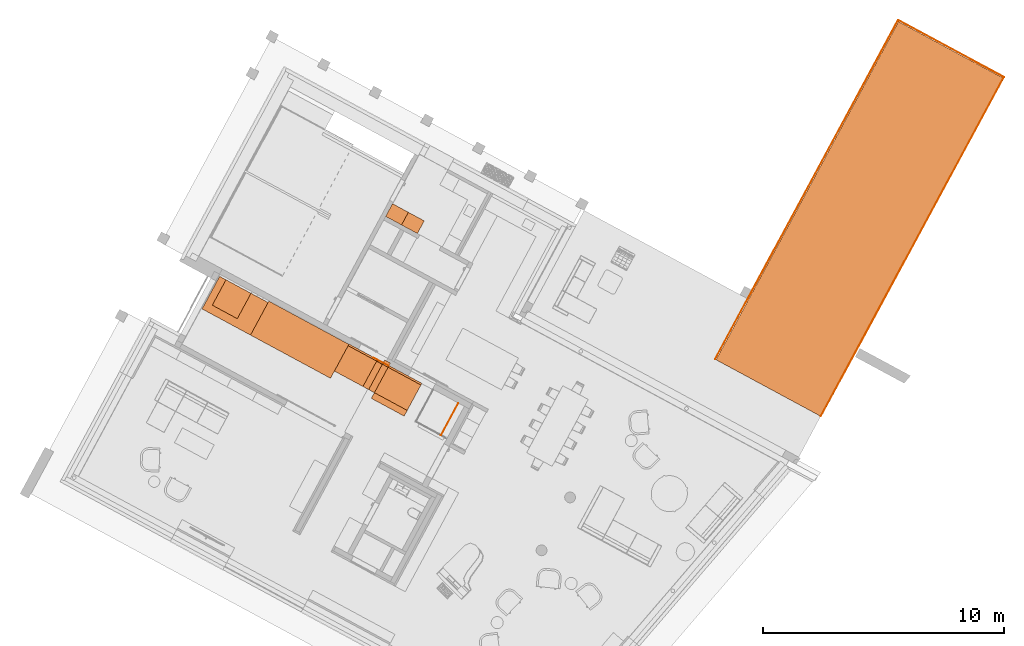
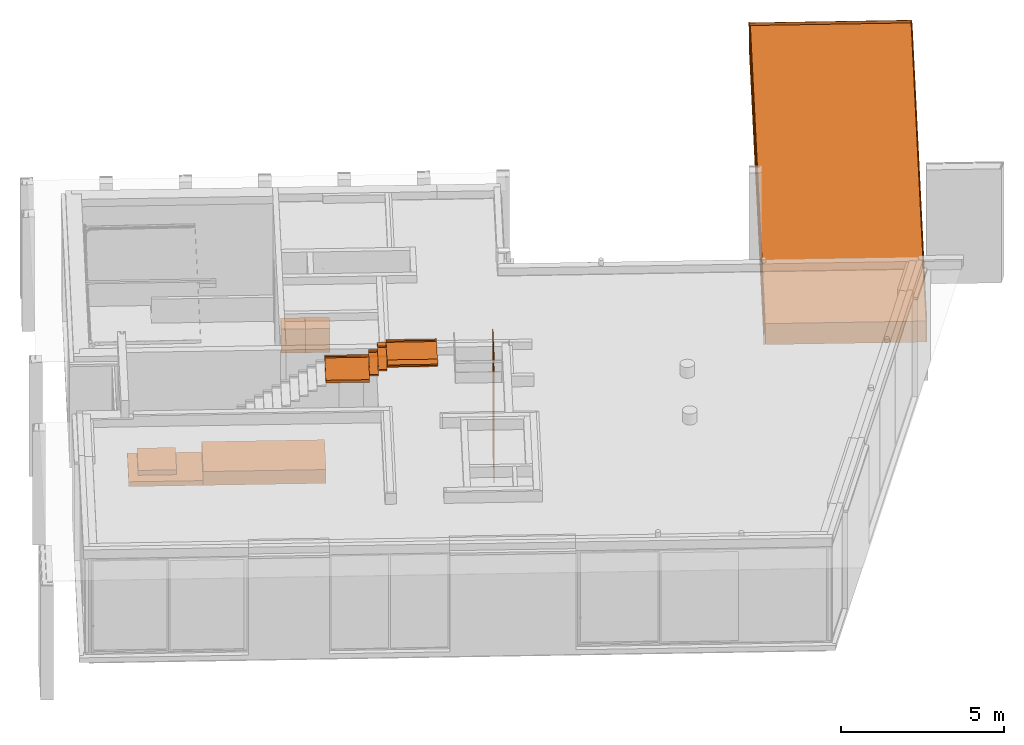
# One storey, part 42 of 52: 20 proxies.
"""IFC2X3 building model written with IfcOpenShell, lengths in metres."""

import ifcopenshell
import ifcopenshell.guid

model = None  # the IFC model being written
_history = None  # IfcOwnerHistory: only IFC2X3 demands one
_inside = {}  # id of a spatial element -> (the spatial element, [elements in it])
_under = {}  # id of a project, library or spatial element -> (it, [spatial elements below it])
_declared = {}  # id of a project -> (the project, [libraries it declares])
_typed = {}  # id of a type object -> (the type object, [elements of that type])
_made_of = {}  # id of a material, layer set ... -> (it, [elements and type objects made of it])


def new_model(schema):
    """Start an empty IFC model of exactly this schema.

    Asked for "IFC4X3", IfcOpenShell would pick the latest addendum, in which some entities
    have other attributes; the version numbers below select the first issue.
    IFC2X3 requires an IfcOwnerHistory on every rooted entity: one is made here for all.
    """
    global model, _history
    if schema == "IFC4X3":
        model = ifcopenshell.file(schema_version=(4, 3, 0, 0))
    else:
        model = ifcopenshell.file(schema=schema)
    _inside.clear()
    _under.clear()
    _declared.clear()
    _typed.clear()
    _made_of.clear()
    _history = None
    if model.schema == "IFC2X3":
        org = make("IfcOrganization", Name="unknown")
        user = make(
            "IfcPersonAndOrganization",
            ThePerson=make("IfcPerson", FamilyName="unknown"),
            TheOrganization=org,
        )
        app = make(
            "IfcApplication",
            ApplicationDeveloper=org,
            Version="unknown",
            ApplicationFullName="unknown",
            ApplicationIdentifier="unknown",
        )
        _history = make(
            "IfcOwnerHistory",
            OwningUser=user,
            OwningApplication=app,
            ChangeAction="ADDED",
            CreationDate=0,
        )
    return model


def make(cls, **values):
    """One entity of the class cls with the attributes given. An attribute that is None is left unset."""
    return model.create_entity(
        cls, **{name: value for name, value in values.items() if value is not None}
    )


def entity(cls, *values):
    """Any entity or typed value of the class cls, its attributes in the order of the schema. None: left unset."""
    e = model.create_entity(cls)
    for i, value in enumerate(values):
        if value is not None:
            e[i] = value
    return e


def rooted(cls, **values):
    """An entity with a GlobalId (a new one), such as an element, a storey or a relation."""
    return make(cls, GlobalId=ifcopenshell.guid.new(), OwnerHistory=_history, **values)


def si_unit(unit_type, name, prefix=None):
    """IfcSIUnit, for example si_unit("LENGTHUNIT", "METRE", prefix="MILLI")."""
    return make("IfcSIUnit", UnitType=unit_type, Prefix=prefix, Name=name)


def converted_unit(unit_type, name, factor, base, dimensions=None, offset=None):
    """IfcConversionBasedUnit, such as the inch: factor (a typed value) times the base unit."""
    return make(
        "IfcConversionBasedUnit"
        if offset is None
        else "IfcConversionBasedUnitWithOffset",
        ConversionOffset=offset,
        Dimensions=None
        if dimensions is None
        else entity("IfcDimensionalExponents", *dimensions),
        UnitType=unit_type,
        Name=name,
        ConversionFactor=make(
            "IfcMeasureWithUnit", ValueComponent=factor, UnitComponent=base
        ),
    )


def derived_unit(unit_type, elements):
    """IfcDerivedUnit: a product of units, each with its exponent."""
    return make(
        "IfcDerivedUnit",
        Elements=[
            make("IfcDerivedUnitElement", Unit=unit, Exponent=power)
            for unit, power in elements
        ],
        UnitType=unit_type,
    )


def money_unit(currency):
    """IfcMonetaryUnit."""
    return make("IfcMonetaryUnit", Currency=currency)


def assignment(units):
    """IfcUnitAssignment: the units of a project."""
    return None if units is None else make("IfcUnitAssignment", Units=units)


def point(xyz):
    """IfcCartesianPoint."""
    return None if xyz is None else make("IfcCartesianPoint", Coordinates=xyz)


def direction(xyz):
    """IfcDirection."""
    return None if xyz is None else make("IfcDirection", DirectionRatios=xyz)


def frame(location, z_axis=None, x_axis=None):
    """IfcAxis2Placement3D, a coordinate frame: its origin and axes. An axis left out is left unset."""
    return make(
        "IfcAxis2Placement3D",
        Location=point(location),
        Axis=direction(z_axis),
        RefDirection=direction(x_axis),
    )


def origin_with_axes():
    """The frame at (0, 0, 0) with the z axis (0, 0, 1) and the x axis (1, 0, 0) written out."""
    return frame((0.0, 0.0, 0.0), z_axis=(0.0, 0.0, 1.0), x_axis=(1.0, 0.0, 0.0))


def place(relative_to, where):
    """IfcLocalPlacement: puts the frame where relative to a parent placement (None: the world)."""
    return make(
        "IfcLocalPlacement", PlacementRelTo=relative_to, RelativePlacement=where
    )


def context(
    kind, dimensions, precision=None, world=None, true_north=None, identifier=None
):
    """IfcGeometricRepresentationContext, for example the 3D "Model" context."""
    return make(
        "IfcGeometricRepresentationContext",
        ContextIdentifier=identifier,
        ContextType=kind,
        CoordinateSpaceDimension=dimensions,
        Precision=precision,
        WorldCoordinateSystem=world,
        TrueNorth=true_north,
    )


def subcontext(parent, identifier, kind, view, scale=None):
    """IfcGeometricRepresentationSubContext, for example "Body" below "Model"."""
    return make(
        "IfcGeometricRepresentationSubContext",
        ContextIdentifier=identifier,
        ContextType=kind,
        ParentContext=parent,
        TargetScale=scale,
        TargetView=view,
    )


def project(units=None, contexts=None):
    """IfcProject with its units and contexts."""
    return rooted(
        "IfcProject",
        Name="project",
        RepresentationContexts=contexts,
        UnitsInContext=assignment(units),
    )


def spatial(cls, under=None, at=None, **own):
    """A site, building, storey or space (cls), placed at a placement, below another one or the project."""
    s = rooted(cls, ObjectPlacement=at, **own)
    if under is not None:
        _under.setdefault(under.id(), (under, []))[1].append(s)
    return s


def polyline(points):
    """IfcPolyline through the points."""
    return make("IfcPolyline", Points=[point(p) for p in points])


def outline(outer, holes=None, kind="AREA"):
    """IfcArbitraryClosedProfileDef: a profile drawn as a closed curve; with holes, ...WithVoids."""
    if holes is None:
        return make("IfcArbitraryClosedProfileDef", ProfileType=kind, OuterCurve=outer)
    return make(
        "IfcArbitraryProfileDefWithVoids",
        ProfileType=kind,
        OuterCurve=outer,
        InnerCurves=holes,
    )


def extrude(swept, where, along, depth):
    """IfcExtrudedAreaSolid: the profile swept, set in the frame where, extruded along a direction by depth."""
    return make(
        "IfcExtrudedAreaSolid",
        SweptArea=swept,
        Position=where,
        ExtrudedDirection=direction(along),
        Depth=depth,
    )


def faces_of(points, faces, orient=None, outer=None):
    """IfcFace entities. A face is a list of loops; a loop is a list of indices into points, from 0.

    orient and outer hold one flag for each loop. By default every Orientation is true, the
    first loop of a face is its IfcFaceOuterBound and the others are IfcFaceBound.
    """
    made = []
    for i, loops in enumerate(faces):
        bounds = []
        for j, loop in enumerate(loops):
            is_outer = j == 0 if outer is None else outer[i][j]
            bounds.append(
                make(
                    "IfcFaceOuterBound" if is_outer else "IfcFaceBound",
                    Bound=make("IfcPolyLoop", Polygon=[points[k] for k in loop]),
                    Orientation=True if orient is None else orient[i][j],
                )
            )
        made.append(make("IfcFace", Bounds=bounds))
    return made


def faceted_brep(points, faces, orient=None, outer=None, voids=None):
    """IfcFacetedBrep: a solid bounded by flat faces; with voids (closed shells), ...WithVoids."""
    shared = [point(p) for p in points]
    hull = make("IfcClosedShell", CfsFaces=faces_of(shared, faces, orient, outer))
    if voids is None:
        return make("IfcFacetedBrep", Outer=hull)
    return make(
        "IfcFacetedBrepWithVoids",
        Outer=hull,
        Voids=[
            make(cls, CfsFaces=faces_of(shared, fs, o, b)) for cls, fs, o, b in voids
        ],
    )


def shape(context_of_items, identifier, shape_type, items):
    """IfcShapeRepresentation: the items that make up one representation, for example the "Body"."""
    return make(
        "IfcShapeRepresentation",
        ContextOfItems=context_of_items,
        RepresentationIdentifier=identifier,
        RepresentationType=shape_type,
        Items=items,
    )


def source(mapping_origin, context_of_items, identifier, shape_type, items):
    """IfcRepresentationMap: a shape defined once, which mapped items show again and again."""
    return make(
        "IfcRepresentationMap",
        MappingOrigin=mapping_origin,
        MappedRepresentation=shape(context_of_items, identifier, shape_type, items),
    )


def transform(
    local_origin,
    x_axis=None,
    y_axis=None,
    z_axis=None,
    scale=None,
    scale2=None,
    scale3=None,
    uniform=True,
):
    """IfcCartesianTransformationOperator3D, or its non-uniform kind. x_axis, y_axis, z_axis: its Axis1, 2, 3."""
    if uniform:
        return make(
            "IfcCartesianTransformationOperator3D",
            Axis1=direction(x_axis),
            Axis2=direction(y_axis),
            LocalOrigin=point(local_origin),
            Scale=scale,
            Axis3=direction(z_axis),
        )
    return make(
        "IfcCartesianTransformationOperator3DnonUniform",
        Axis1=direction(x_axis),
        Axis2=direction(y_axis),
        LocalOrigin=point(local_origin),
        Scale=scale,
        Axis3=direction(z_axis),
        Scale2=scale2,
        Scale3=scale3,
    )


def mapped(mapping_source, mapping_target):
    """IfcMappedItem: shows the shape of a source again, moved by a transform."""
    return make(
        "IfcMappedItem", MappingSource=mapping_source, MappingTarget=mapping_target
    )


def material(Name=None, Category=None):
    """IfcMaterial."""
    return make("IfcMaterial", Name=Name, Category=Category)


def made_of(thing, what):
    """Note that an element or type object is made of a material, layer set ...; save() writes the relation."""
    if what is not None:
        _made_of.setdefault(what.id(), (what, []))[1].append(thing)
    return thing


def type_object(cls, material=None, **own):
    """A type object (cls), such as IfcWallType, which elements share."""
    return made_of(rooted(cls, **own), material)


def element(
    cls,
    number,
    at=None,
    inside=None,
    cuts=None,
    type_object=None,
    material=None,
    context=None,
    identifier="Body",
    shape_type=None,
    held_by="IfcProductDefinitionShape",
    body=None,
    shapes=None,
    **own,
):
    """One element of the class cls, such as IfcWall. Its Tag is "e" and its number.

    at: its placement. inside: the storey or other place that contains it. cuts: it is an
    opening in that element (IfcRelVoidsElement). A single representation is given by context,
    identifier, shape_type and body (its items); several are given by shapes. held_by: the class
    of the entity that holds the representations. save() writes the other relations.
    """
    e = rooted(cls, Tag="e%d" % number, ObjectPlacement=at, **own)
    if body is not None:
        shapes = [shape(context, identifier, shape_type, body)]
    if shapes is not None:
        e.Representation = make(held_by, Representations=shapes)
    if inside is not None:
        _inside.setdefault(inside.id(), (inside, []))[1].append(e)
    if cuts is not None:
        rooted(
            "IfcRelVoidsElement", RelatingBuildingElement=cuts, RelatedOpeningElement=e
        )
    if type_object is not None:
        _typed.setdefault(type_object.id(), (type_object, []))[1].append(e)
    return made_of(e, material)


def aggregate(whole, parts):
    """IfcRelAggregates: a whole, such as a stair, and the parts it consists of."""
    return rooted("IfcRelAggregates", RelatingObject=whole, RelatedObjects=parts)


def save(model, path):
    """Write the relations noted so far, then the file.

    IfcRelAggregates (storeys below a building ...), IfcRelContainedInSpatialStructure (elements
    in a storey), IfcRelDefinesByType, IfcRelAssociatesMaterial and IfcRelDeclares: one each for
    every whole, place, type object, material and project.
    """
    for whole, parts in _under.values():
        aggregate(whole, parts)
    for where, things in _inside.values():
        rooted(
            "IfcRelContainedInSpatialStructure",
            RelatedElements=things,
            RelatingStructure=where,
        )
    for kind, things in _typed.values():
        rooted("IfcRelDefinesByType", RelatedObjects=things, RelatingType=kind)
    for what, things in _made_of.values():
        rooted("IfcRelAssociatesMaterial", RelatedObjects=things, RelatingMaterial=what)
    for by, libraries in _declared.values():
        rooted("IfcRelDeclares", RelatingContext=by, RelatedDefinitions=libraries)
    model.write(path)


model = new_model("IFC2X3")

# Units and contexts
model_context = context("Model", 3, precision=1e-05, world=origin_with_axes(), true_north=direction((0.0, 1.0)))
body_context = subcontext(model_context, "Body", "Model", "MODEL_VIEW")
ifc_project = project(units=[si_unit("LENGTHUNIT", "METRE"), si_unit("AREAUNIT", "SQUARE_METRE"), si_unit("VOLUMEUNIT", "CUBIC_METRE"), converted_unit("PLANEANGLEUNIT", "DEGREE", entity("IfcPlaneAngleMeasure", 0.0174532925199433), si_unit("PLANEANGLEUNIT", "RADIAN"), dimensions=[0, 0, 0, 0, 0, 0, 0]), money_unit("EUR"), converted_unit("TIMEUNIT", "Year", entity("IfcTimeMeasure", 31556926.0), si_unit("TIMEUNIT", "SECOND"), dimensions=[0, 0, 1, 0, 0, 0, 0]), si_unit("MASSUNIT", "GRAM", prefix="KILO"), si_unit("THERMODYNAMICTEMPERATUREUNIT", "DEGREE_CELSIUS"), si_unit("LUMINOUSINTENSITYUNIT", "LUMEN"), si_unit("ENERGYUNIT", "JOULE", prefix="MEGA"), derived_unit("THERMALCONDUCTANCEUNIT", [(si_unit("POWERUNIT", "WATT"), 1), (si_unit("LENGTHUNIT", "METRE"), -1), (si_unit("THERMODYNAMICTEMPERATUREUNIT", "KELVIN"), -1)]), derived_unit("SPECIFICHEATCAPACITYUNIT", [(si_unit("ENERGYUNIT", "JOULE"), 1), (si_unit("MASSUNIT", "GRAM", prefix="KILO"), -1), (si_unit("THERMODYNAMICTEMPERATUREUNIT", "KELVIN"), -1)]), derived_unit("MASSDENSITYUNIT", [(si_unit("MASSUNIT", "GRAM", prefix="KILO"), 1), (si_unit("VOLUMEUNIT", "CUBIC_METRE"), -1)])], contexts=[model_context])

# Site, building, storey
site_placement = place(None, frame((-3.949935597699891, 1.740105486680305, 0.0), z_axis=(0.0, 0.0, 1.0), x_axis=(0.8799804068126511, -0.475009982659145, 0.0)))
site = spatial("IfcSite", under=ifc_project, at=site_placement, Name="Gelände", CompositionType="ELEMENT")
building_placement = place(site_placement, origin_with_axes())
building = spatial("IfcBuilding", under=site, at=building_placement, Name="Gebäude", CompositionType="ELEMENT")
storey_placement = place(building_placement, origin_with_axes())
storey = spatial("IfcBuildingStorey", under=building, at=storey_placement, Name="Erdgeschoss", CompositionType="ELEMENT", Elevation=0.0)

# Proxies
building_element_proxy_type_1 = type_object("IfcBuildingElementProxyType", Name="Unterschrank Mehrfach-Schublade 22", PredefinedType="NOTDEFINED")
shared_shape = source(origin_with_axes(), body_context, "Body", "Brep", [
    faceted_brep([(-0.001500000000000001, 0.07, 0.0915), (-0.001500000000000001, 0.05, 0.0915), (-0.7484999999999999, 0.05, 0.0915), (-0.7484999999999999, 0.07, 0.0915), (-0.001500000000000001, 0.07000000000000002, 0.2785), (-0.001500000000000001, 0.05000000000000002, 0.2785), (-0.7484999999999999, 0.05000000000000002, 0.2785), (-0.7484999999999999, 0.07000000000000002, 0.2785)], [[[0, 1, 2, 3]], [[4, 5, 1, 0]], [[1, 5, 6, 2]], [[3, 2, 6, 7]], [[0, 3, 7, 4]], [[7, 6, 5, 4]]]),
    faceted_brep([(-0.3704077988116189, 0.05, 0.2039134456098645), (-0.375, 0.05, 0.203), (-0.3795922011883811, 0.05, 0.2039134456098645), (-0.3834852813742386, 0.05, 0.2065147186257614), (-0.3860865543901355, 0.05, 0.2104077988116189), (-0.387, 0.05, 0.215), (-0.3860865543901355, 0.05, 0.2195922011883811), (-0.3834852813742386, 0.05, 0.2234852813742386), (-0.3795922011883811, 0.05, 0.2260865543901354), (-0.375, 0.05, 0.227), (-0.3704077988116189, 0.05, 0.2260865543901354), (-0.3665147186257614, 0.05, 0.2234852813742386), (-0.3639134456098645, 0.05, 0.2195922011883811), (-0.363, 0.05, 0.215), (-0.3639134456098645, 0.05, 0.2104077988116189), (-0.3665147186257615, 0.05, 0.2065147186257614), (-0.3704077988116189, 0.025, 0.2039134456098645), (-0.375, 0.025, 0.203), (-0.3795922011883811, 0.025, 0.2039134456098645), (-0.3834852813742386, 0.025, 0.2065147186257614), (-0.3860865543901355, 0.025, 0.2104077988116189), (-0.387, 0.025, 0.215), (-0.3860865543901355, 0.025, 0.2195922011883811), (-0.3834852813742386, 0.025, 0.2234852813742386), (-0.3795922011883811, 0.025, 0.2260865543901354), (-0.375, 0.025, 0.227), (-0.3704077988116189, 0.025, 0.2260865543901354), (-0.3665147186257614, 0.025, 0.2234852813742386), (-0.3639134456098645, 0.025, 0.2195922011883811), (-0.363, 0.025, 0.215), (-0.3639134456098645, 0.025, 0.2104077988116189), (-0.3665147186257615, 0.025, 0.2065147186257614)], [[[0, 1, 2, 3, 4, 5, 6, 7, 8, 9, 10, 11, 12, 13, 14, 15]], [[0, 16, 17, 1]], [[1, 17, 18, 2]], [[2, 18, 19, 3]], [[3, 19, 20, 4]], [[4, 20, 21, 5]], [[5, 21, 22, 6]], [[6, 22, 23, 7]], [[7, 23, 24, 8]], [[8, 24, 25, 9]], [[9, 25, 26, 10]], [[10, 26, 27, 11]], [[11, 27, 28, 12]], [[12, 28, 29, 13]], [[13, 29, 30, 14]], [[14, 30, 31, 15]], [[15, 31, 16, 0]], [[16, 31, 30, 29, 28, 27, 26, 25, 24, 23, 22, 21, 20, 19, 18, 17]]]),
    faceted_brep([(-0.001500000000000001, 0.07, 0.2815), (-0.001500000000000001, 0.05, 0.2815), (-0.7484999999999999, 0.05, 0.2815), (-0.7484999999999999, 0.07, 0.2815), (-0.001500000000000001, 0.07000000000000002, 0.4685), (-0.001500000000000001, 0.05000000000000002, 0.4685), (-0.7484999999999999, 0.05000000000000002, 0.4685), (-0.7484999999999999, 0.07000000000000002, 0.4685)], [[[0, 1, 2, 3]], [[4, 5, 1, 0]], [[1, 5, 6, 2]], [[3, 2, 6, 7]], [[0, 3, 7, 4]], [[7, 6, 5, 4]]]),
    faceted_brep([(-0.3704077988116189, 0.05, 0.3939134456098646), (-0.375, 0.05, 0.393), (-0.3795922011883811, 0.05, 0.3939134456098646), (-0.3834852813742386, 0.05, 0.3965147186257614), (-0.3860865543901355, 0.05, 0.400407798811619), (-0.387, 0.05, 0.405), (-0.3860865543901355, 0.05, 0.4095922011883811), (-0.3834852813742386, 0.05, 0.4134852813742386), (-0.3795922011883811, 0.05, 0.4160865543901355), (-0.375, 0.05, 0.417), (-0.3704077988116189, 0.05, 0.4160865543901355), (-0.3665147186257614, 0.05, 0.4134852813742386), (-0.3639134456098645, 0.05, 0.4095922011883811), (-0.363, 0.05, 0.405), (-0.3639134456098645, 0.05, 0.4004077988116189), (-0.3665147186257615, 0.05, 0.3965147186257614), (-0.3704077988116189, 0.025, 0.3939134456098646), (-0.375, 0.025, 0.393), (-0.3795922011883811, 0.025, 0.3939134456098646), (-0.3834852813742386, 0.025, 0.3965147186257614), (-0.3860865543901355, 0.025, 0.400407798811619), (-0.387, 0.025, 0.405), (-0.3860865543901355, 0.025, 0.4095922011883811), (-0.3834852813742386, 0.025, 0.4134852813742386), (-0.3795922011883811, 0.025, 0.4160865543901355), (-0.375, 0.025, 0.417), (-0.3704077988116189, 0.025, 0.4160865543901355), (-0.3665147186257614, 0.025, 0.4134852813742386), (-0.3639134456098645, 0.025, 0.4095922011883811), (-0.363, 0.025, 0.405), (-0.3639134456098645, 0.025, 0.4004077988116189), (-0.3665147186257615, 0.025, 0.3965147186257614)], [[[0, 1, 2, 3, 4, 5, 6, 7, 8, 9, 10, 11, 12, 13, 14, 15]], [[0, 16, 17, 1]], [[1, 17, 18, 2]], [[2, 18, 19, 3]], [[3, 19, 20, 4]], [[4, 20, 21, 5]], [[5, 21, 22, 6]], [[6, 22, 23, 7]], [[7, 23, 24, 8]], [[8, 24, 25, 9]], [[9, 25, 26, 10]], [[10, 26, 27, 11]], [[11, 27, 28, 12]], [[12, 28, 29, 13]], [[13, 29, 30, 14]], [[14, 30, 31, 15]], [[15, 31, 16, 0]], [[16, 31, 30, 29, 28, 27, 26, 25, 24, 23, 22, 21, 20, 19, 18, 17]]]),
    faceted_brep([(-0.02, 0.07, 0.28), (-0.02, 0.07, 0.3), (-0.73, 0.07, 0.3), (-0.73, 0.07, 0.28), (-0.02, 0.58, 0.28), (-0.02, 0.58, 0.3), (-0.73, 0.58, 0.3), (-0.73, 0.58, 0.28)], [[[0, 1, 2, 3]], [[4, 5, 1, 0]], [[1, 5, 6, 2]], [[3, 2, 6, 7]], [[0, 3, 7, 4]], [[7, 6, 5, 4]]]),
    faceted_brep([(-0.001500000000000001, 0.07, 0.4715), (-0.001500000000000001, 0.05, 0.4715), (-0.7484999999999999, 0.05, 0.4715), (-0.7484999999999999, 0.07, 0.4715), (-0.001500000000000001, 0.07000000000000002, 0.6585), (-0.001500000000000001, 0.05000000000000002, 0.6585), (-0.7484999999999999, 0.05000000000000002, 0.6585), (-0.7484999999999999, 0.07000000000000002, 0.6585)], [[[0, 1, 2, 3]], [[4, 5, 1, 0]], [[1, 5, 6, 2]], [[3, 2, 6, 7]], [[0, 3, 7, 4]], [[7, 6, 5, 4]]]),
    faceted_brep([(-0.3704077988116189, 0.05, 0.5839134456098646), (-0.375, 0.05, 0.583), (-0.3795922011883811, 0.05, 0.5839134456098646), (-0.3834852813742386, 0.05, 0.5865147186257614), (-0.3860865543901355, 0.05, 0.5904077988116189), (-0.387, 0.05, 0.595), (-0.3860865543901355, 0.05, 0.5995922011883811), (-0.3834852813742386, 0.05, 0.6034852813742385), (-0.3795922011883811, 0.05, 0.6060865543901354), (-0.375, 0.05, 0.607), (-0.3704077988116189, 0.05, 0.6060865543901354), (-0.3665147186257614, 0.05, 0.6034852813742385), (-0.3639134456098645, 0.05, 0.5995922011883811), (-0.363, 0.05, 0.595), (-0.3639134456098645, 0.05, 0.5904077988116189), (-0.3665147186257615, 0.05, 0.5865147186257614), (-0.3704077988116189, 0.025, 0.5839134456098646), (-0.375, 0.025, 0.583), (-0.3795922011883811, 0.025, 0.5839134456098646), (-0.3834852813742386, 0.025, 0.5865147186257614), (-0.3860865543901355, 0.025, 0.5904077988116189), (-0.387, 0.025, 0.595), (-0.3860865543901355, 0.025, 0.5995922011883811), (-0.3834852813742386, 0.025, 0.6034852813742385), (-0.3795922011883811, 0.025, 0.6060865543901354), (-0.375, 0.025, 0.607), (-0.3704077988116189, 0.025, 0.6060865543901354), (-0.3665147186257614, 0.025, 0.6034852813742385), (-0.3639134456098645, 0.025, 0.5995922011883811), (-0.363, 0.025, 0.595), (-0.3639134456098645, 0.025, 0.5904077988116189), (-0.3665147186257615, 0.025, 0.5865147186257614)], [[[0, 1, 2, 3, 4, 5, 6, 7, 8, 9, 10, 11, 12, 13, 14, 15]], [[0, 16, 17, 1]], [[1, 17, 18, 2]], [[2, 18, 19, 3]], [[3, 19, 20, 4]], [[4, 20, 21, 5]], [[5, 21, 22, 6]], [[6, 22, 23, 7]], [[7, 23, 24, 8]], [[8, 24, 25, 9]], [[9, 25, 26, 10]], [[10, 26, 27, 11]], [[11, 27, 28, 12]], [[12, 28, 29, 13]], [[13, 29, 30, 14]], [[14, 30, 31, 15]], [[15, 31, 16, 0]], [[16, 31, 30, 29, 28, 27, 26, 25, 24, 23, 22, 21, 20, 19, 18, 17]]]),
    faceted_brep([(-0.02, 0.07, 0.47), (-0.02, 0.07, 0.49), (-0.73, 0.07, 0.49), (-0.73, 0.07, 0.47), (-0.02, 0.58, 0.47), (-0.02, 0.58, 0.49), (-0.73, 0.58, 0.49), (-0.73, 0.58, 0.47)], [[[0, 1, 2, 3]], [[4, 5, 1, 0]], [[1, 5, 6, 2]], [[3, 2, 6, 7]], [[0, 3, 7, 4]], [[7, 6, 5, 4]]]),
    faceted_brep([(-0.001500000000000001, 0.07, 0.6615), (-0.001500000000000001, 0.05, 0.6615), (-0.7484999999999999, 0.05, 0.6615), (-0.7484999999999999, 0.07, 0.6615), (-0.001500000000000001, 0.07000000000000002, 0.8485), (-0.001500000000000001, 0.05000000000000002, 0.8485), (-0.7484999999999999, 0.05000000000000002, 0.8485), (-0.7484999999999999, 0.07000000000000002, 0.8485)], [[[0, 1, 2, 3]], [[4, 5, 1, 0]], [[1, 5, 6, 2]], [[3, 2, 6, 7]], [[0, 3, 7, 4]], [[7, 6, 5, 4]]]),
    faceted_brep([(-0.3704077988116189, 0.05, 0.7739134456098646), (-0.375, 0.05, 0.773), (-0.3795922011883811, 0.05, 0.7739134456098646), (-0.3834852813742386, 0.05, 0.7765147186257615), (-0.3860865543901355, 0.05, 0.7804077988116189), (-0.387, 0.05, 0.785), (-0.3860865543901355, 0.05, 0.7895922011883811), (-0.3834852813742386, 0.05, 0.7934852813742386), (-0.3795922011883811, 0.05, 0.7960865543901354), (-0.375, 0.05, 0.797), (-0.3704077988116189, 0.05, 0.7960865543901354), (-0.3665147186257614, 0.05, 0.7934852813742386), (-0.3639134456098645, 0.05, 0.7895922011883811), (-0.363, 0.05, 0.785), (-0.3639134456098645, 0.05, 0.7804077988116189), (-0.3665147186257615, 0.05, 0.7765147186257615), (-0.3704077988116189, 0.025, 0.7739134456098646), (-0.375, 0.025, 0.773), (-0.3795922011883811, 0.025, 0.7739134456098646), (-0.3834852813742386, 0.025, 0.7765147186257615), (-0.3860865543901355, 0.025, 0.7804077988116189), (-0.387, 0.025, 0.785), (-0.3860865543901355, 0.025, 0.7895922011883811), (-0.3834852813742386, 0.025, 0.7934852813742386), (-0.3795922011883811, 0.025, 0.7960865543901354), (-0.375, 0.025, 0.797), (-0.3704077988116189, 0.025, 0.7960865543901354), (-0.3665147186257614, 0.025, 0.7934852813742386), (-0.3639134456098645, 0.025, 0.7895922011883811), (-0.363, 0.025, 0.785), (-0.3639134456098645, 0.025, 0.7804077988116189), (-0.3665147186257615, 0.025, 0.7765147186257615)], [[[0, 1, 2, 3, 4, 5, 6, 7, 8, 9, 10, 11, 12, 13, 14, 15]], [[0, 16, 17, 1]], [[1, 17, 18, 2]], [[2, 18, 19, 3]], [[3, 19, 20, 4]], [[4, 20, 21, 5]], [[5, 21, 22, 6]], [[6, 22, 23, 7]], [[7, 23, 24, 8]], [[8, 24, 25, 9]], [[9, 25, 26, 10]], [[10, 26, 27, 11]], [[11, 27, 28, 12]], [[12, 28, 29, 13]], [[13, 29, 30, 14]], [[14, 30, 31, 15]], [[15, 31, 16, 0]], [[16, 31, 30, 29, 28, 27, 26, 25, 24, 23, 22, 21, 20, 19, 18, 17]]]),
    faceted_brep([(-0.02, 0.07, 0.66), (-0.02, 0.07, 0.68), (-0.73, 0.07, 0.68), (-0.73, 0.07, 0.66), (-0.02, 0.58, 0.66), (-0.02, 0.58, 0.68), (-0.73, 0.58, 0.68), (-0.73, 0.58, 0.66)], [[[0, 1, 2, 3]], [[4, 5, 1, 0]], [[1, 5, 6, 2]], [[3, 2, 6, 7]], [[0, 3, 7, 4]], [[7, 6, 5, 4]]]),
    faceted_brep([(0.0, 0.07, 0.0), (0.0, 0.07, 0.09), (-0.75, 0.07, 0.09), (-0.75, 0.07, 0.0), (0.0, 0.6, 0.0), (0.0, 0.6, 0.09), (-0.75, 0.6, 0.09), (-0.75, 0.6, 0.0)], [[[0, 1, 2, 3]], [[4, 5, 1, 0]], [[1, 5, 6, 2]], [[3, 2, 6, 7]], [[0, 3, 7, 4]], [[7, 6, 5, 4]]]),
    faceted_brep([(0.0, 0.07, 0.83), (0.0, 0.07, 0.85), (-0.02, 0.07, 0.85), (-0.02, 0.07, 0.83), (0.0, 0.6, 0.83), (0.0, 0.6, 0.85), (-0.02, 0.6, 0.85), (-0.73, 0.6, 0.85), (-0.75, 0.6, 0.85), (-0.75, 0.07, 0.85), (-0.73, 0.07, 0.85), (-0.73, 0.07, 0.83), (-0.75, 0.07, 0.83), (-0.75, 0.6, 0.83), (-0.73, 0.6, 0.83), (-0.02, 0.6, 0.83)], [[[0, 1, 2, 3]], [[4, 5, 1, 0]], [[1, 5, 6, 7, 8, 9, 10, 2]], [[3, 2, 10, 11]], [[0, 3, 11, 12, 13, 14, 15, 4]], [[15, 6, 5, 4]], [[14, 7, 6, 15]], [[13, 8, 7, 14]], [[12, 9, 8, 13]], [[11, 10, 9, 12]]]),
    faceted_brep([(0.0, 0.07, 0.09), (0.0, 0.07, 0.11), (-0.02, 0.07, 0.11), (-0.02, 0.07, 0.09), (0.0, 0.6, 0.09), (0.0, 0.6, 0.11), (-0.02, 0.6, 0.11), (-0.73, 0.6, 0.11), (-0.75, 0.6, 0.11), (-0.75, 0.07, 0.11), (-0.73, 0.07, 0.11), (-0.73, 0.07, 0.09), (-0.75, 0.07, 0.09), (-0.75, 0.6, 0.09), (-0.73, 0.6, 0.09), (-0.02, 0.6, 0.09)], [[[0, 1, 2, 3]], [[4, 5, 1, 0]], [[1, 5, 6, 7, 8, 9, 10, 2]], [[3, 2, 10, 11]], [[0, 3, 11, 12, 13, 14, 15, 4]], [[15, 6, 5, 4]], [[14, 7, 6, 15]], [[13, 8, 7, 14]], [[12, 9, 8, 13]], [[11, 10, 9, 12]]]),
    faceted_brep([(0.0, 0.07, 0.11), (0.0, 0.07, 0.83), (-0.02, 0.07, 0.83), (-0.02, 0.07, 0.11), (0.0, 0.6, 0.11), (0.0, 0.6, 0.83), (-0.75, 0.6, 0.83), (-0.75, 0.07, 0.83), (-0.73, 0.07, 0.83), (-0.73, 0.58, 0.83), (-0.02, 0.58, 0.83), (-0.02, 0.58, 0.11), (-0.73, 0.58, 0.11), (-0.73, 0.07, 0.11), (-0.75, 0.07, 0.11), (-0.75, 0.6, 0.11)], [[[0, 1, 2, 3]], [[4, 5, 1, 0]], [[1, 5, 6, 7, 8, 9, 10, 2]], [[3, 2, 10, 11]], [[0, 3, 11, 12, 13, 14, 15, 4]], [[15, 6, 5, 4]], [[14, 7, 6, 15]], [[13, 8, 7, 14]], [[12, 9, 8, 13]], [[11, 10, 9, 12]]]),
    faceted_brep([(0.0, 0.0, 0.85), (0.0, 0.0, 0.9), (-0.75, 0.0, 0.9), (-0.75, 0.0, 0.85), (0.0, 0.6, 0.85), (0.0, 0.6, 0.9), (-0.75, 0.6, 0.9), (-0.75, 0.6, 0.85)], [[[0, 1, 2, 3]], [[4, 5, 1, 0]], [[1, 5, 6, 2]], [[3, 2, 6, 7]], [[0, 3, 7, 4]], [[7, 6, 5, 4]]]),
])
for number, where, z_axis, x_axis, name in (
    (1, (10.53740756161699, 16.6496917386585, 0.0), (0.0, 0.0, 1.0), (-1.0, 0.0, 0.0), "Objekt-0064"),
    (2, (11.28740756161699, 16.6496917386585, 0.0), (0.0, 0.0, 1.0), (-1.0, 0.0, 0.0), "Objekt-0064"),
):
    element("IfcBuildingElementProxy", number, at=place(storey_placement, frame(where, z_axis=z_axis, x_axis=x_axis)), inside=storey, type_object=building_element_proxy_type_1, Name=name, context=body_context, shape_type="MappedRepresentation", body=[
        mapped(shared_shape, transform((0.0, 0.0, 0.0))),
    ])
ifc_material_1 = material(Name="Wasser")
building_element_proxy_type_2 = type_object("IfcBuildingElementProxyType", Name="Wasser 789", PredefinedType="NOTDEFINED")
proxy_1_placement = place(storey_placement, frame((25.45796349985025, 17.3278052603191, -0.8737883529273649), z_axis=(0.0, 0.0, 1.0), x_axis=(1.0, 0.0, 0.0)))
element("IfcBuildingElementProxy", 3, at=proxy_1_placement, inside=storey, type_object=building_element_proxy_type_2, material=ifc_material_1, Name="Decke026", context=body_context, shape_type="Brep", body=[
    faceted_brep([(4.943330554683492, 7.315222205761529e-08, 0.7887889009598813), (4.943330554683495, 15.98039587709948, 0.7887889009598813), (0.0, 15.98039587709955, 0.7887889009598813), (0.0, 0.0, 0.7887889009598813), (4.943330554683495, 15.98039587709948, 0.0), (4.943330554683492, 7.315222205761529e-08, 0.0), (0.0, 15.98039587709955, 0.0), (0.0, 0.0, 0.0)], [[[0, 1, 2, 3]], [[4, 1, 0, 5]], [[1, 4, 6, 2]], [[2, 6, 7, 3]], [[5, 0, 3, 7]], [[4, 5, 7, 6]]]),
    faceted_brep([(4.953330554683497, 15.98039587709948, 0.0), (4.953330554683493, 15.98039587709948, 0.7887889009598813), (4.979199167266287, 15.98039587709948, 0.7887889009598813), (4.979199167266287, 15.98039587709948, 0.0), (4.953330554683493, 7.315222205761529e-08, 0.7887889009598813), (4.953330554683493, 7.315222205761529e-08, 0.0), (4.979199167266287, 0.0, 0.7887889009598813), (4.979199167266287, 0.0, 0.0)], [[[0, 1, 2, 3]], [[4, 1, 0, 5]], [[1, 4, 6, 2]], [[6, 7, 3, 2]], [[5, 0, 3, 7]], [[4, 5, 7, 6]]]),
])
ifc_material_2 = material(Name="Glas, Normalglas")
building_element_proxy_type_3 = type_object("IfcBuildingElementProxyType", Name="Glas, Normalglas 10", PredefinedType="NOTDEFINED")
proxy_2_placement = place(storey_placement, frame((16.89157746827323, 9.12780041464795, -0.15), z_axis=(0.0, 0.0, 1.0), x_axis=(-9.806387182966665e-07, 0.9999999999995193, 0.0)))
element("IfcBuildingElementProxy", 4, at=proxy_2_placement, inside=storey, type_object=building_element_proxy_type_3, material=ifc_material_2, Name="I-Wand033", context=body_context, shape_type="Brep", body=[
    faceted_brep([(1.51499935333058, 0.009999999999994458, 0.0), (1.51499935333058, 0.009999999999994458, 4.170000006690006), (1.51499935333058, 0.0, 4.170000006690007), (1.51499935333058, 0.0, 0.0), (0.009998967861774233, 0.00999999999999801, 0.0), (0.009998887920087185, 0.00999999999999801, 4.170000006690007), (0.009998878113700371, 0.0, 4.170000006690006), (0.009998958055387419, 0.0, 0.0)], [[[0, 1, 2, 3]], [[4, 5, 1, 0]], [[5, 6, 2, 1]], [[3, 2, 6, 7]], [[0, 3, 7, 4]], [[7, 6, 5, 4]]]),
    faceted_brep([(0.009998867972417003, 0.0, 4.699), (0.009998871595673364, 0.0, 4.510000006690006), (1.51499935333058, 0.0, 4.510000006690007), (1.51499935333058, 0.0, 4.699), (0.009998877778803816, 0.00999999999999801, 4.699), (0.009998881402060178, 0.00999999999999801, 4.510000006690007), (1.51499935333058, 0.009999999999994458, 4.510000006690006), (1.51499935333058, 0.009999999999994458, 4.699)], [[[0, 1, 2, 3]], [[4, 5, 1, 0]], [[5, 6, 2, 1]], [[3, 2, 6, 7]], [[3, 7, 4, 0]], [[7, 6, 5, 4]]]),
])
ifc_material_3 = material(Name="Beton, WU-Beton")
building_element_proxy_type_4 = type_object("IfcBuildingElementProxyType", Name="Beton, WU-Beton 10", PredefinedType="NOTDEFINED")
proxy_3_placement = place(storey_placement, frame((25.41928798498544, 33.34740113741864, -0.8737883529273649), z_axis=(0.0, 0.0, 1.0), x_axis=(1.0, 0.0, 0.0)))
element("IfcBuildingElementProxy", 5, at=proxy_3_placement, inside=storey, type_object=building_element_proxy_type_4, material=ifc_material_3, Name="Wand-016", context=body_context, shape_type="Brep", body=[
    faceted_brep([(4.992006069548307, 0.00999999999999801, 0.0), (4.992006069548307, 0.0, 0.0), (0.0, 0.0, 0.0), (0.0, 0.00999999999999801, 0.0), (4.992006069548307, 0.00999999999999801, 0.8637883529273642), (4.992006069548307, 0.0, 0.8637883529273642), (0.0, 0.0, 0.8637883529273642), (0.0, 0.00999999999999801, 0.8637883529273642)], [[[0, 1, 2, 3]], [[1, 0, 4, 5]], [[1, 5, 6, 2]], [[7, 3, 2, 6]], [[4, 0, 3, 7]], [[5, 4, 7, 6]]]),
])
proxy_4_placement = place(storey_placement, frame((25.41928798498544, 17.32780533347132, -0.8737883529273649), z_axis=(0.0, 0.0, 1.0), x_axis=(0.0, 1.0, 0.0)))
element("IfcBuildingElementProxy", 6, at=proxy_4_placement, inside=storey, type_object=building_element_proxy_type_4, material=ifc_material_3, Name="Wand-015", context=body_context, shape_type="Brep", body=[
    faceted_brep([(0.0, 0.01000000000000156, 0.0), (16.02959580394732, 0.01000000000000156, 0.0), (16.02959580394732, 0.0, 0.0), (0.0, 0.0, 0.0), (0.0, 0.01000000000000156, 0.8737883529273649), (16.02959580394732, 0.01000000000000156, 0.8737883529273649), (16.02959580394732, 0.0, 0.8737883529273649), (0.0, 0.0, 0.8737883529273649)], [[[0, 1, 2, 3]], [[4, 5, 1, 0]], [[2, 1, 5, 6]], [[3, 2, 6, 7]], [[4, 0, 3, 7]], [[7, 6, 5, 4]]]),
])
proxy_5_placement = place(storey_placement, frame((30.40129405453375, 33.34740113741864, -0.8737883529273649), z_axis=(0.0, 0.0, 1.0), x_axis=(0.0, -1.0, 0.0)))
element("IfcBuildingElementProxy", 7, at=proxy_5_placement, inside=storey, type_object=building_element_proxy_type_4, material=ifc_material_3, Name="Wand-017", context=body_context, shape_type="Brep", body=[
    faceted_brep([(0.0, 0.01000000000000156, 0.0), (16.01959580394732, 0.00999999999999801, 0.0), (16.01959580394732, 0.0, 0.0), (0.0, 0.0, 0.0), (0.0, 0.01000000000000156, 0.8637883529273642), (16.01959580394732, 0.00999999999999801, 0.8637883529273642), (16.01959580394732, 0.0, 0.8637883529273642), (0.0, 0.0, 0.8637883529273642)], [[[0, 1, 2, 3]], [[4, 5, 1, 0]], [[2, 1, 5, 6]], [[3, 2, 6, 7]], [[4, 0, 3, 7]], [[7, 6, 5, 4]]]),
])
ifc_material_4 = material(Name="Gipskarton")
building_element_proxy_type_5 = type_object("IfcBuildingElementProxyType", Name="Gipskarton 15", PredefinedType="NOTDEFINED")
proxy_6_placement = place(storey_placement, frame((12.87815167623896, 10.64349702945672, 3.600000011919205), z_axis=(0.0, 0.0, 1.0), x_axis=(1.0, 0.0, 0.0)))
element("IfcBuildingElementProxy", 8, at=proxy_6_placement, inside=storey, type_object=building_element_proxy_type_5, material=ifc_material_4, Name="Decke001", context=body_context, shape_type="SweptSolid", body=[
    extrude(outline(polyline([(0.0, 0.0), (7.513243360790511e-09, -0.00073269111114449), (0.7293357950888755, -0.0007252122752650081), (0.729335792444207, 6.997123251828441e-05), (0.0, 0.0)])), origin_with_axes(), (0.0, 0.0, 1.0), 0.015),
])
ifc_material_5 = material(Name="ALLGEMEIN - BAUTEIL")
building_element_proxy_type_6 = type_object("IfcBuildingElementProxyType", Name="ALLGEMEIN - BAUTEIL 520", PredefinedType="NOTDEFINED")
proxy_7_placement = place(storey_placement, frame((7.937495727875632, 9.037799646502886, 0.52), z_axis=(0.0, 0.0, 1.0), x_axis=(1.0, 0.0, 0.0)))
element("IfcBuildingElementProxy", 9, at=proxy_7_placement, inside=storey, type_object=building_element_proxy_type_6, material=ifc_material_5, Name="Decke003", context=body_context, shape_type="SweptSolid", body=[
    extrude(outline(polyline([(0.0, 0.0), (3.779997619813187, 1.759830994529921e-05), (3.779990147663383, 1.604984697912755), (-7.472149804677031e-06, 1.604967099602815), (0.0, 0.0)])), frame((0.0, 0.0, -0.52), z_axis=(0.0, 0.0, 1.0), x_axis=(1.0, 0.0, 0.0)), (0.0, 0.0, 1.0), 0.52),
])
ifc_material_6 = material(Name="ALLGEMEIN - NIEDRIGE PRIORITÄT")
building_element_proxy_type_7 = type_object("IfcBuildingElementProxyType", Name="ALLGEMEIN - NIEDRIGE PRIORITÄT 182", PredefinedType="NOTDEFINED")
proxy_8_placement = place(storey_placement, frame((5.648260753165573, 9.03779964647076, 0.0), z_axis=(0.0, 0.0, 1.0), x_axis=(1.0, 0.0, 0.0)))
element("IfcBuildingElementProxy", 10, at=proxy_8_placement, inside=storey, type_object=building_element_proxy_type_7, material=ifc_material_6, Name="Decke031", context=body_context, shape_type="SweptSolid", body=[
    extrude(outline(polyline([(0.0, 0.0), (2.289228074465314, 0.0), (2.289228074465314, 1.539974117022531), (0.0, 1.539993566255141), (0.0, 0.0)])), origin_with_axes(), (0.0, 0.0, 1.0), 0.182),
])
proxy_9_placement = place(storey_placement, frame((5.948262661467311, 9.377791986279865, 0.182), z_axis=(0.0, 0.0, 1.0), x_axis=(1.0, 0.0, 0.0)))
element("IfcBuildingElementProxy", 11, at=proxy_9_placement, inside=storey, type_object=building_element_proxy_type_7, material=ifc_material_6, Name="Decke042", context=body_context, shape_type="SweptSolid", body=[
    extrude(outline(polyline([(0.0, 0.0), (1.181727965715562, 0.0), (1.181727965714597, 1.199998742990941), (0.0, 1.200000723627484), (0.0, 0.0)])), origin_with_axes(), (0.0, 0.0, 1.0), 0.182),
])
building_element_proxy_type_8 = type_object("IfcBuildingElementProxyType", Name="ALLGEMEIN - NIEDRIGE PRIORITÄT 100", PredefinedType="NOTDEFINED")
proxy_10_placement = place(storey_placement, frame((11.71998429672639, 9.377791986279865, 3.529999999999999), z_axis=(0.0, 0.0, 1.0), x_axis=(1.0, 0.0, 0.0)))
element("IfcBuildingElementProxy", 12, at=proxy_10_placement, inside=storey, type_object=building_element_proxy_type_8, material=ifc_material_6, Name="Decke043", context=body_context, shape_type="SweptSolid", body=[
    extrude(outline(polyline([(0.0, 0.0), (1.347501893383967, 0.0), (1.347501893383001, 1.199998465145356), (0.0, 1.200000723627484), (0.0, 0.0)])), origin_with_axes(), (0.0, 0.0, 1.0), 0.1),
])
proxy_11_placement = place(storey_placement, frame((13.33747825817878, 10.77779324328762, 3.762), z_axis=(0.0, 0.0, 1.0), x_axis=(1.0, 0.0, 0.0)))
element("IfcBuildingElementProxy", 13, at=proxy_11_placement, inside=storey, type_object=building_element_proxy_type_8, material=ifc_material_6, Name="Decke045", context=body_context, shape_type="Brep", body=[
    faceted_brep([(9.31128099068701e-07, -0.1999999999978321, 0.0), (5.586425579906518e-07, -0.1199926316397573, 0.0), (5.586425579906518e-07, -0.1199926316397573, 0.1000000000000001), (9.31128099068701e-07, -0.1999999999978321, 0.1000000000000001), (-0.2699990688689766, -0.2000012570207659, 0.0), (-0.2699994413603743, -0.1199926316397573, 0.0), (-0.2699994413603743, -0.1199926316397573, 0.1000000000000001), (-0.2699990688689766, -0.2000012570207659, 0.1000000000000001)], [[[0, 1, 2, 3]], [[4, 5, 1, 0]], [[5, 6, 2, 1]], [[3, 2, 6, 7]], [[3, 7, 4, 0]], [[7, 6, 5, 4]]]),
])
proxy_12_placement = place(storey_placement, frame((13.60747825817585, 10.77779450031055, 3.944), z_axis=(0.0, 0.0, 1.0), x_axis=(1.0, 0.0, 0.0)))
element("IfcBuildingElementProxy", 14, at=proxy_12_placement, inside=storey, type_object=building_element_proxy_type_8, material=ifc_material_6, Name="Decke047", context=body_context, shape_type="SweptSolid", body=[
    extrude(outline(polyline([(0.0, 0.0), (-0.2699999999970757, -1.257022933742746e-06), (-0.2699990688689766, -0.2000012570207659), (9.31128099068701e-07, -0.1999999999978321), (0.0, 0.0)])), origin_with_axes(), (0.0, 0.0, 1.0), 0.1000000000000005),
])
proxy_13_placement = place(storey_placement, frame((13.60748477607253, 9.377791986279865, 4.076), z_axis=(0.0, 0.0, 1.0), x_axis=(1.0, 0.0, 0.0)))
element("IfcBuildingElementProxy", 15, at=proxy_13_placement, inside=storey, type_object=building_element_proxy_type_8, material=ifc_material_6, Name="Decke048", context=body_context, shape_type="SweptSolid", body=[
    extrude(outline(polyline([(0.0, 0.0), (1.551924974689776, 0.0), (1.551924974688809, 1.19999812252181), (0.0, 1.200000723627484), (0.0, 0.0)])), origin_with_axes(), (0.0, 0.0, 1.0), 0.1),
])
proxy_14_placement = place(storey_placement, frame((15.15940881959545, 10.77779867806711, 4.125999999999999), z_axis=(0.0, 0.0, 1.0), x_axis=(1.0, 0.0, 0.0)))
element("IfcBuildingElementProxy", 16, at=proxy_14_placement, inside=storey, type_object=building_element_proxy_type_8, material=ifc_material_6, Name="Decke049", context=body_context, shape_type="Brep", body=[
    faceted_brep([(9.31128099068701e-07, -0.1999999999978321, 0.0), (5.586678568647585e-07, -0.1199980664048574, 0.0), (5.586678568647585e-07, -0.1199980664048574, 0.09999999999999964), (9.31128099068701e-07, -0.1999999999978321, 0.09999999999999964), (-1.551924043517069, -0.2000072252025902, 0.0), (-1.551924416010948, -0.1199980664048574, 0.0), (-1.551924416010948, -0.1199980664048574, 0.09999999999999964), (-1.551924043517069, -0.2000072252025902, 0.09999999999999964)], [[[0, 1, 2, 3]], [[4, 5, 1, 0]], [[5, 6, 2, 1]], [[3, 2, 6, 7]], [[3, 7, 4, 0]], [[7, 6, 5, 4]]]),
])
building_element_proxy_type_9 = type_object("IfcBuildingElementProxyType", Name="ALLGEMEIN - NIEDRIGE PRIORITÄT 50", PredefinedType="NOTDEFINED")
for number, where, z_axis, x_axis, name in (
    (17, (13.33748477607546, 9.377793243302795, 3.762), (0.0, 0.0, 1.0), (1.0, 0.0, 0.0), "Decke044"),
    (18, (13.60748477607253, 9.377794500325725, 3.944), (0.0, 0.0, 1.0), (1.0, 0.0, 0.0), "Decke046"),
):
    element("IfcBuildingElementProxy", number, at=place(storey_placement, frame(where, z_axis=z_axis, x_axis=x_axis)), inside=storey, type_object=building_element_proxy_type_9, material=ifc_material_6, Name=name, context=body_context, shape_type="Brep", body=[
        faceted_brep([(-5.586768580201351e-06, 1.199999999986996, 0.05000000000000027), (0.0, 0.0, 0.05000000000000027), (0.0, 0.0, 0.0), (-5.586768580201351e-06, 1.199999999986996, 0.0), (-0.2700055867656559, 1.199998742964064, 0.05000000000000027), (-0.2699999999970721, -1.257022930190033e-06, 0.05000000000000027), (-0.2699999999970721, -1.257022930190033e-06, 0.0), (-0.2700055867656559, 1.199998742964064, 0.0)], [[[0, 1, 2, 3]], [[4, 5, 1, 0]], [[1, 5, 6, 2]], [[7, 3, 2, 6]], [[4, 0, 3, 7]], [[5, 4, 7, 6]]]),
    ])
proxy_15_placement = place(storey_placement, frame((13.60748800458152, 9.107791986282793, 4.308000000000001), z_axis=(0.0, 0.0, 1.0), x_axis=(1.0, 0.0, 0.0)))
element("IfcBuildingElementProxy", 19, at=proxy_15_placement, inside=storey, type_object=building_element_proxy_type_9, material=ifc_material_6, Name="Decke050", context=body_context, shape_type="SweptSolid", body=[
    extrude(outline(polyline([(0.0, 0.0), (1.551924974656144, 7.225204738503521e-06), (1.55192371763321, 0.270007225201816), (-1.257022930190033e-06, 0.2699999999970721), (0.0, 0.0)])), origin_with_axes(), (0.0, 0.0, 1.0), 0.04999999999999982),
])
building_element_proxy_type_10 = type_object("IfcBuildingElementProxyType", Name="ALLGEMEIN - NIEDRIGE PRIORITÄT 150", PredefinedType="NOTDEFINED")
proxy_16_placement = place(storey_placement, frame((13.06748525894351, 10.77779867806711, 3.53), z_axis=(0.0, 0.0, 1.0), x_axis=(1.0, 0.0, 0.0)))
element("IfcBuildingElementProxy", 20, at=proxy_16_placement, inside=storey, type_object=building_element_proxy_type_10, material=ifc_material_6, Name="Decke051", context=body_context, shape_type="Brep", body=[
    faceted_brep([(9.31128099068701e-07, -0.1999999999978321, 0.0), (5.586678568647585e-07, -0.1199980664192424, 0.0), (5.586678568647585e-07, -0.1199980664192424, 0.1500000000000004), (9.31128099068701e-07, -0.1999999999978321, 0.1499999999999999), (-1.347501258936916, -0.200006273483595, 0.0), (-1.347501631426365, -0.1199980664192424, 0.0), (-1.347501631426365, -0.1199980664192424, 0.1499999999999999), (-1.347501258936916, -0.200006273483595, 0.1499999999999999)], [[[0, 1, 2, 3]], [[4, 5, 1, 0]], [[5, 6, 2, 1]], [[3, 2, 6, 7]], [[3, 7, 4, 0]], [[7, 6, 5, 4]]]),
])

save(model, "model.ifc")
